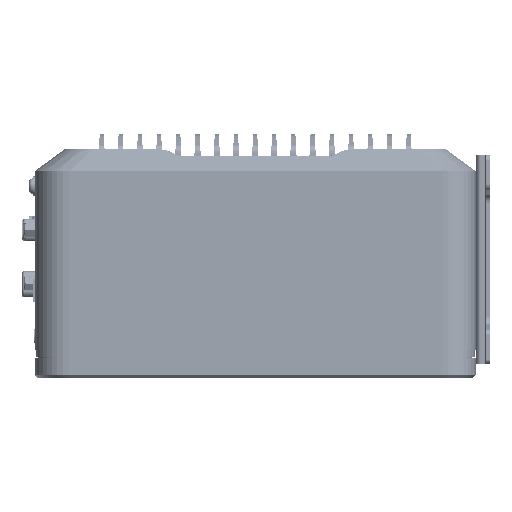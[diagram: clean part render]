
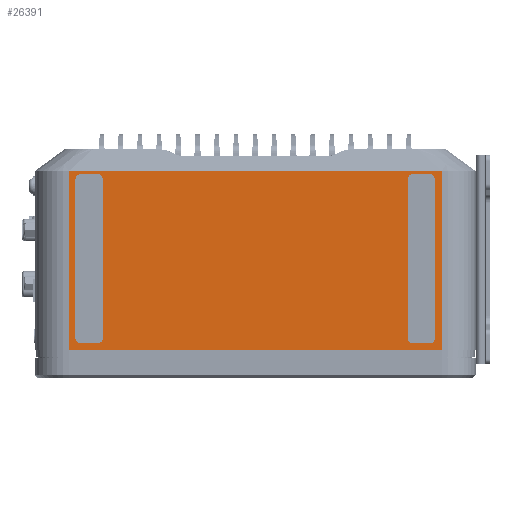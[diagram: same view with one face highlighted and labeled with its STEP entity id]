
A CAD part, front view. The second image highlights one B-rep face of the part: STEP entity #26391.
In plain terms, the highlighted planar face has unit normal (0, -1, 0).
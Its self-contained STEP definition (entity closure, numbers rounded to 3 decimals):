
#1348=DIRECTION('',(0.,0.,-1.));
#1349=VECTOR('',#1348,63.3);
#1350=CARTESIAN_POINT('',(-66.,-101.5,1.3));
#1351=LINE('',#1350,#1349);
#1867=DIRECTION('',(0.,0.,1.));
#1868=VECTOR('',#1867,63.3);
#1869=CARTESIAN_POINT('',(66.,-101.5,-62.));
#1870=LINE('',#1869,#1868);
#1917=DIRECTION('',(1.,0.,0.));
#1918=VECTOR('',#1917,132.);
#1919=CARTESIAN_POINT('',(-66.,-101.5,-62.));
#1920=LINE('',#1919,#1918);
#10196=DIRECTION('',(1.,0.,0.));
#10197=VECTOR('',#10196,132.);
#10198=CARTESIAN_POINT('',(-66.,-101.5,1.3));
#10199=LINE('',#10198,#10197);
#10200=CARTESIAN_POINT('',(-55.75,-101.5,-57.75));
#10201=DIRECTION('',(0.,-1.,0.));
#10202=DIRECTION('',(0.,0.,-1.));
#10203=AXIS2_PLACEMENT_3D('',#10200,#10201,#10202);
#10205=CARTESIAN_POINT('',(-55.75,-101.5,-1.75));
#10206=DIRECTION('',(0.,-1.,0.));
#10207=DIRECTION('',(1.,0.,0.));
#10208=AXIS2_PLACEMENT_3D('',#10205,#10206,#10207);
#10210=CARTESIAN_POINT('',(-61.75,-101.5,-1.75));
#10211=DIRECTION('',(0.,-1.,0.));
#10212=DIRECTION('',(0.,0.,1.));
#10213=AXIS2_PLACEMENT_3D('',#10210,#10211,#10212);
#10215=CARTESIAN_POINT('',(-61.75,-101.5,-57.75));
#10216=DIRECTION('',(0.,-1.,0.));
#10217=DIRECTION('',(-1.,0.,0.));
#10218=AXIS2_PLACEMENT_3D('',#10215,#10216,#10217);
#10220=CARTESIAN_POINT('',(55.75,-101.5,-57.75));
#10221=DIRECTION('',(0.,-1.,0.));
#10222=DIRECTION('',(-1.,0.,0.));
#10223=AXIS2_PLACEMENT_3D('',#10220,#10221,#10222);
#10225=CARTESIAN_POINT('',(61.75,-101.5,-57.75));
#10226=DIRECTION('',(0.,-1.,0.));
#10227=DIRECTION('',(0.,0.,-1.));
#10228=AXIS2_PLACEMENT_3D('',#10225,#10226,#10227);
#10230=CARTESIAN_POINT('',(61.75,-101.5,-1.75));
#10231=DIRECTION('',(0.,-1.,0.));
#10232=DIRECTION('',(1.,0.,0.));
#10233=AXIS2_PLACEMENT_3D('',#10230,#10231,#10232);
#10235=CARTESIAN_POINT('',(55.75,-101.5,-1.75));
#10236=DIRECTION('',(0.,-1.,0.));
#10237=DIRECTION('',(0.,0.,1.));
#10238=AXIS2_PLACEMENT_3D('',#10235,#10236,#10237);
#10248=DIRECTION('',(-1.,0.,0.));
#10249=VECTOR('',#10248,6.);
#10250=CARTESIAN_POINT('',(-55.75,-101.5,-59.6));
#10251=LINE('',#10250,#10249);
#10260=DIRECTION('',(0.,0.,1.));
#10261=VECTOR('',#10260,56.);
#10262=CARTESIAN_POINT('',(-63.6,-101.5,-57.75));
#10263=LINE('',#10262,#10261);
#10272=DIRECTION('',(1.,0.,0.));
#10273=VECTOR('',#10272,6.);
#10274=CARTESIAN_POINT('',(-61.75,-101.5,0.1));
#10275=LINE('',#10274,#10273);
#10284=DIRECTION('',(0.,0.,-1.));
#10285=VECTOR('',#10284,56.);
#10286=CARTESIAN_POINT('',(-53.9,-101.5,-1.75));
#10287=LINE('',#10286,#10285);
#10332=DIRECTION('',(0.,0.,1.));
#10333=VECTOR('',#10332,56.);
#10334=CARTESIAN_POINT('',(53.9,-101.5,-57.75));
#10335=LINE('',#10334,#10333);
#10344=DIRECTION('',(1.,0.,0.));
#10345=VECTOR('',#10344,6.);
#10346=CARTESIAN_POINT('',(55.75,-101.5,0.1));
#10347=LINE('',#10346,#10345);
#10356=DIRECTION('',(0.,0.,-1.));
#10357=VECTOR('',#10356,56.);
#10358=CARTESIAN_POINT('',(63.6,-101.5,-1.75));
#10359=LINE('',#10358,#10357);
#10368=DIRECTION('',(-1.,0.,0.));
#10369=VECTOR('',#10368,6.);
#10370=CARTESIAN_POINT('',(61.75,-101.5,-59.6));
#10371=LINE('',#10370,#10369);
#15085=CARTESIAN_POINT('',(66.,-101.5,1.3));
#15086=VERTEX_POINT('',#15085);
#15087=CARTESIAN_POINT('',(-66.,-101.5,1.3));
#15088=VERTEX_POINT('',#15087);
#15737=CARTESIAN_POINT('',(-66.,-101.5,-62.));
#15738=VERTEX_POINT('',#15737);
#15929=CARTESIAN_POINT('',(66.,-101.5,-62.));
#15930=VERTEX_POINT('',#15929);
#16027=CARTESIAN_POINT('',(-55.75,-101.5,-59.6));
#16028=CARTESIAN_POINT('',(-53.9,-101.5,-57.75));
#16029=VERTEX_POINT('',#16027);
#16030=VERTEX_POINT('',#16028);
#16031=CARTESIAN_POINT('',(-53.9,-101.5,-1.75));
#16032=VERTEX_POINT('',#16031);
#16033=CARTESIAN_POINT('',(-55.75,-101.5,0.1));
#16034=VERTEX_POINT('',#16033);
#16035=CARTESIAN_POINT('',(-61.75,-101.5,0.1));
#16036=VERTEX_POINT('',#16035);
#16037=CARTESIAN_POINT('',(-63.6,-101.5,-1.75));
#16038=VERTEX_POINT('',#16037);
#16039=CARTESIAN_POINT('',(-63.6,-101.5,-57.75));
#16040=VERTEX_POINT('',#16039);
#16041=CARTESIAN_POINT('',(-61.75,-101.5,-59.6));
#16042=VERTEX_POINT('',#16041);
#16043=CARTESIAN_POINT('',(53.9,-101.5,-57.75));
#16044=CARTESIAN_POINT('',(55.75,-101.5,-59.6));
#16045=VERTEX_POINT('',#16043);
#16046=VERTEX_POINT('',#16044);
#16047=CARTESIAN_POINT('',(61.75,-101.5,-59.6));
#16048=VERTEX_POINT('',#16047);
#16049=CARTESIAN_POINT('',(63.6,-101.5,-57.75));
#16050=VERTEX_POINT('',#16049);
#16051=CARTESIAN_POINT('',(63.6,-101.5,-1.75));
#16052=VERTEX_POINT('',#16051);
#16053=CARTESIAN_POINT('',(61.75,-101.5,0.1));
#16054=VERTEX_POINT('',#16053);
#16055=CARTESIAN_POINT('',(55.75,-101.5,0.1));
#16056=VERTEX_POINT('',#16055);
#16057=CARTESIAN_POINT('',(53.9,-101.5,-1.75));
#16058=VERTEX_POINT('',#16057);
#26344=CARTESIAN_POINT('',(78.,-101.5,-61.));
#26345=DIRECTION('',(0.,-1.,0.));
#26346=DIRECTION('',(-1.,0.,0.));
#26347=AXIS2_PLACEMENT_3D('',#26344,#26345,#26346);
#26348=PLANE('',#26347);
#26349=ORIENTED_EDGE('',*,*,#18995,.F.);
#26350=ORIENTED_EDGE('',*,*,#19023,.F.);
#26351=ORIENTED_EDGE('',*,*,#18390,.F.);
#26352=ORIENTED_EDGE('',*,*,#18543,.T.);
#26353=EDGE_LOOP('',(#26349,#26350,#26351,#26352));
#26354=FACE_OUTER_BOUND('',#26353,.F.);
#26356=ORIENTED_EDGE('',*,*,#26355,.T.);
#26358=ORIENTED_EDGE('',*,*,#26357,.F.);
#26360=ORIENTED_EDGE('',*,*,#26359,.T.);
#26362=ORIENTED_EDGE('',*,*,#26361,.F.);
#26364=ORIENTED_EDGE('',*,*,#26363,.T.);
#26366=ORIENTED_EDGE('',*,*,#26365,.F.);
#26368=ORIENTED_EDGE('',*,*,#26367,.T.);
#26370=ORIENTED_EDGE('',*,*,#26369,.F.);
#26371=EDGE_LOOP('',(#26356,#26358,#26360,#26362,#26364,#26366,#26368,#26370));
#26372=FACE_BOUND('',#26371,.F.);
#26374=ORIENTED_EDGE('',*,*,#26373,.T.);
#26376=ORIENTED_EDGE('',*,*,#26375,.F.);
#26378=ORIENTED_EDGE('',*,*,#26377,.T.);
#26380=ORIENTED_EDGE('',*,*,#26379,.F.);
#26382=ORIENTED_EDGE('',*,*,#26381,.T.);
#26384=ORIENTED_EDGE('',*,*,#26383,.F.);
#26386=ORIENTED_EDGE('',*,*,#26385,.T.);
#26388=ORIENTED_EDGE('',*,*,#26387,.F.);
#26389=EDGE_LOOP('',(#26374,#26376,#26378,#26380,#26382,#26384,#26386,#26388));
#26390=FACE_BOUND('',#26389,.F.);
#10204=CIRCLE('',#10203,1.85);
#10209=CIRCLE('',#10208,1.85);
#10214=CIRCLE('',#10213,1.85);
#10219=CIRCLE('',#10218,1.85);
#10224=CIRCLE('',#10223,1.85);
#10229=CIRCLE('',#10228,1.85);
#10234=CIRCLE('',#10233,1.85);
#10239=CIRCLE('',#10238,1.85);
#18390=EDGE_CURVE('',#15088,#15738,#1351,.T.);
#18543=EDGE_CURVE('',#15088,#15086,#10199,.T.);
#18995=EDGE_CURVE('',#15930,#15086,#1870,.T.);
#19023=EDGE_CURVE('',#15738,#15930,#1920,.T.);
#26355=EDGE_CURVE('',#16029,#16030,#10204,.T.);
#26357=EDGE_CURVE('',#16032,#16030,#10287,.T.);
#26359=EDGE_CURVE('',#16032,#16034,#10209,.T.);
#26361=EDGE_CURVE('',#16036,#16034,#10275,.T.);
#26363=EDGE_CURVE('',#16036,#16038,#10214,.T.);
#26365=EDGE_CURVE('',#16040,#16038,#10263,.T.);
#26367=EDGE_CURVE('',#16040,#16042,#10219,.T.);
#26369=EDGE_CURVE('',#16029,#16042,#10251,.T.);
#26373=EDGE_CURVE('',#16045,#16046,#10224,.T.);
#26375=EDGE_CURVE('',#16048,#16046,#10371,.T.);
#26377=EDGE_CURVE('',#16048,#16050,#10229,.T.);
#26379=EDGE_CURVE('',#16052,#16050,#10359,.T.);
#26381=EDGE_CURVE('',#16052,#16054,#10234,.T.);
#26383=EDGE_CURVE('',#16056,#16054,#10347,.T.);
#26385=EDGE_CURVE('',#16056,#16058,#10239,.T.);
#26387=EDGE_CURVE('',#16045,#16058,#10335,.T.);
#26391=ADVANCED_FACE('',(#26354,#26372,#26390),#26348,.T.);
